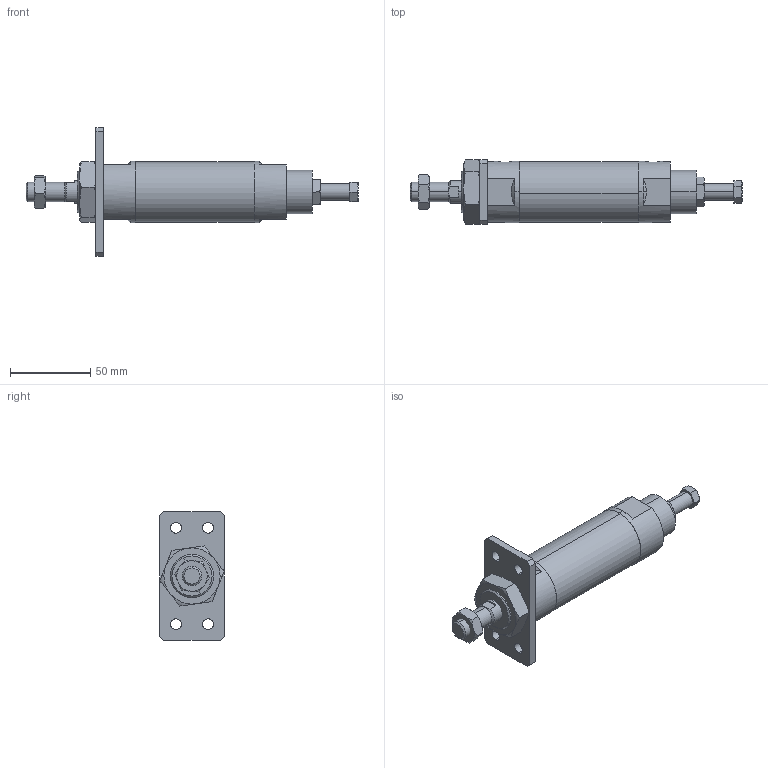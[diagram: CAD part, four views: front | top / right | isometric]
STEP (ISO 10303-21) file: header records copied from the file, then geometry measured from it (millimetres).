
FILE_DESCRIPTION (( 'STEP AP203' ), '1' );
FILE_NAME ('JGA2-32-25-A.STEP', '2016-04-20T05:07:40', ( '' ), ( '' ), 'SwSTEP 2.0', 'SolidWorks 2014', '' );
FILE_SCHEMA (( 'CONFIG_CONTROL_DESIGN' ));
Length unit declared in the file: millimetre
Products named in the file (7): JGA2-32-25-A; M12x1.25-7mm; J#2-32-A; 32-25; JGLH2-32B; JGA2-32A; M27x2-10mm
Assembly tree (6 placements, depth 2):
  JGA2-32-25-A
    JGLH2-32B
    32-25
    JGA2-32A
    M12x1.25-7mm
    M27x2-10mm
    J#2-32-A
Bounding box: 206.5 x 40.02 x 80 mm (x, y, z)
Volume: 166887.8 mm3; surface area: 37374.9 mm2
Topology: 6 solids, 6 shells, 144 faces, 328 edges, 200 vertices
Faces by surface type: plane 58, torus 36, cylinder 34, cone 16
Entity records: 5447 total; most frequent: CARTESIAN_POINT 1547, DIRECTION 660, ORIENTED_EDGE 648, EDGE_CURVE 324, AXIS2_PLACEMENT_3D 269, VERTEX_POINT 200, EDGE_LOOP 166, ADVANCED_FACE 144
